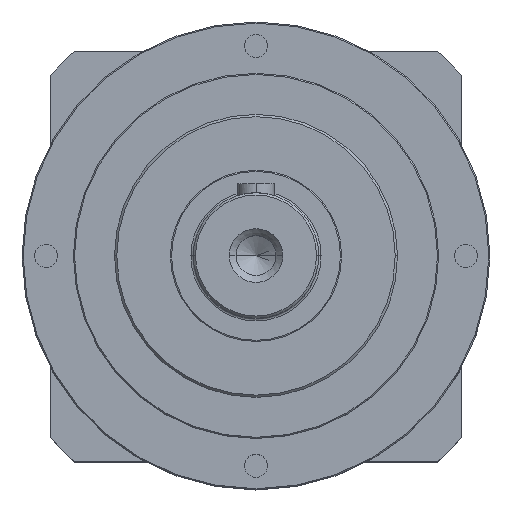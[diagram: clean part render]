
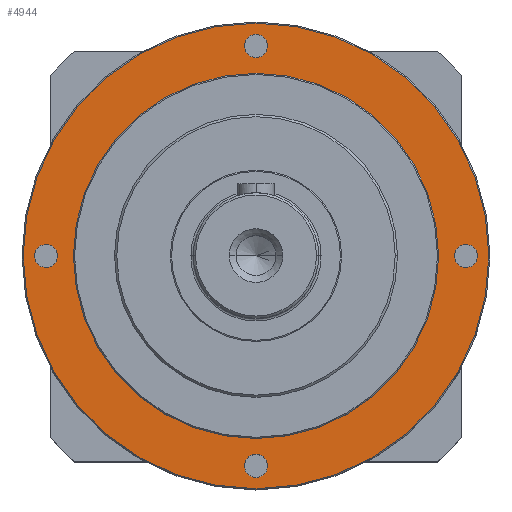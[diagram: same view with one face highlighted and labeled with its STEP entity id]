
A CAD part, top view. The second image highlights one B-rep face of the part: STEP entity #4944.
In plain terms, the highlighted planar face has unit normal (0, 0, 1).
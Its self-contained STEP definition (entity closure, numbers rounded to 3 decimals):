
#99 = CARTESIAN_POINT ( 'NONE',  ( 0., 0., 30. ) ) ;
#209 = EDGE_LOOP ( 'NONE', ( #2709, #4164 ) ) ;
#213 = CARTESIAN_POINT ( 'NONE',  ( 92., 0., 30. ) ) ;
#246 = CARTESIAN_POINT ( 'NONE',  ( 0., 0., 30. ) ) ;
#271 = CARTESIAN_POINT ( 'NONE',  ( -102., 0., 30. ) ) ;
#305 = EDGE_CURVE ( 'NONE', #652, #1727, #5048, .T. ) ;
#388 = ORIENTED_EDGE ( 'NONE', *, *, #2689, .F. ) ;
#393 = VERTEX_POINT ( 'NONE', #3344 ) ;
#459 = CARTESIAN_POINT ( 'NONE',  ( 5.1, 92., 30. ) ) ;
#513 = AXIS2_PLACEMENT_3D ( 'NONE', #2819, #1542, #5340 ) ;
#551 = VERTEX_POINT ( 'NONE', #1841 ) ;
#619 = CARTESIAN_POINT ( 'NONE',  ( 97.1, 0., 30. ) ) ;
#652 = VERTEX_POINT ( 'NONE', #1925 ) ;
#684 = DIRECTION ( 'NONE',  ( 0., 0., 1. ) ) ;
#699 = DIRECTION ( 'NONE',  ( 0., 0., 1. ) ) ;
#781 = ORIENTED_EDGE ( 'NONE', *, *, #4411, .F. ) ;
#861 = CIRCLE ( 'NONE', #901, 80. ) ;
#901 = AXIS2_PLACEMENT_3D ( 'NONE', #246, #684, #5228 ) ;
#913 = CARTESIAN_POINT ( 'NONE',  ( 0., 0., 30. ) ) ;
#1060 = CARTESIAN_POINT ( 'NONE',  ( 0., 92., 30. ) ) ;
#1115 = AXIS2_PLACEMENT_3D ( 'NONE', #2166, #2614, #4697 ) ;
#1117 = DIRECTION ( 'NONE',  ( 0., 0., 1. ) ) ;
#1127 = EDGE_CURVE ( 'NONE', #4384, #2283, #2807, .T. ) ;
#1195 = DIRECTION ( 'NONE',  ( 1., 0., 0. ) ) ;
#1197 = CARTESIAN_POINT ( 'NONE',  ( -5.1, -92., 30. ) ) ;
#1224 = ORIENTED_EDGE ( 'NONE', *, *, #4317, .F. ) ;
#1286 = AXIS2_PLACEMENT_3D ( 'NONE', #3451, #1330, #4294 ) ;
#1330 = DIRECTION ( 'NONE',  ( 0., 0., 1. ) ) ;
#1443 = CIRCLE ( 'NONE', #1286, 5.1 ) ;
#1445 = VERTEX_POINT ( 'NONE', #271 ) ;
#1448 = AXIS2_PLACEMENT_3D ( 'NONE', #5256, #4020, #4450 ) ;
#1452 = ORIENTED_EDGE ( 'NONE', *, *, #3228, .F. ) ;
#1485 = DIRECTION ( 'NONE',  ( 1., 0., 0. ) ) ;
#1542 = DIRECTION ( 'NONE',  ( 0., 0., 1. ) ) ;
#1674 = ORIENTED_EDGE ( 'NONE', *, *, #4354, .F. ) ;
#1704 = AXIS2_PLACEMENT_3D ( 'NONE', #2842, #699, #4129 ) ;
#1727 = VERTEX_POINT ( 'NONE', #2099 ) ;
#1811 = DIRECTION ( 'NONE',  ( 0., 0., 1. ) ) ;
#1828 = DIRECTION ( 'NONE',  ( 0., 0., 1. ) ) ;
#1835 = FACE_OUTER_BOUND ( 'NONE', #2648, .T. ) ;
#1837 = ORIENTED_EDGE ( 'NONE', *, *, #4094, .F. ) ;
#1841 = CARTESIAN_POINT ( 'NONE',  ( -5.1, 92., 30. ) ) ;
#1855 = EDGE_CURVE ( 'NONE', #551, #4927, #1443, .T. ) ;
#1878 = CIRCLE ( 'NONE', #3419, 80. ) ;
#1925 = CARTESIAN_POINT ( 'NONE',  ( -86.9, 0., 30. ) ) ;
#2099 = CARTESIAN_POINT ( 'NONE',  ( -97.1, 0., 30. ) ) ;
#2166 = CARTESIAN_POINT ( 'NONE',  ( 0., 0., 30. ) ) ;
#2190 = FACE_BOUND ( 'NONE', #4415, .T. ) ;
#2272 = CIRCLE ( 'NONE', #1448, 5.1 ) ;
#2283 = VERTEX_POINT ( 'NONE', #1197 ) ;
#2353 = EDGE_LOOP ( 'NONE', ( #5282, #1837 ) ) ;
#2355 = AXIS2_PLACEMENT_3D ( 'NONE', #4774, #1811, #3512 ) ;
#2401 = CARTESIAN_POINT ( 'NONE',  ( -92., 0., 30. ) ) ;
#2419 = EDGE_LOOP ( 'NONE', ( #3310, #781 ) ) ;
#2431 = AXIS2_PLACEMENT_3D ( 'NONE', #4932, #3265, #2874 ) ;
#2521 = EDGE_CURVE ( 'NONE', #4927, #551, #3800, .T. ) ;
#2589 = FACE_BOUND ( 'NONE', #2419, .T. ) ;
#2614 = DIRECTION ( 'NONE',  ( 0., 0., 1. ) ) ;
#2648 = EDGE_LOOP ( 'NONE', ( #3250, #5192 ) ) ;
#2650 = FACE_BOUND ( 'NONE', #2353, .T. ) ;
#2684 = DIRECTION ( 'NONE',  ( 0., 0., 1. ) ) ;
#2689 = EDGE_CURVE ( 'NONE', #4290, #3564, #3416, .T. ) ;
#2696 = DIRECTION ( 'NONE',  ( 0., 0., 1. ) ) ;
#2709 = ORIENTED_EDGE ( 'NONE', *, *, #2521, .F. ) ;
#2807 = CIRCLE ( 'NONE', #2355, 5.1 ) ;
#2819 = CARTESIAN_POINT ( 'NONE',  ( -92., 0., 30. ) ) ;
#2842 = CARTESIAN_POINT ( 'NONE',  ( 92., 0., 30. ) ) ;
#2874 = DIRECTION ( 'NONE',  ( 1., 0., 0. ) ) ;
#2992 = FACE_BOUND ( 'NONE', #209, .T. ) ;
#3064 = CIRCLE ( 'NONE', #4199, 5.1 ) ;
#3080 = DIRECTION ( 'NONE',  ( 1., 0., 0. ) ) ;
#3131 = CIRCLE ( 'NONE', #4298, 5.1 ) ;
#3228 = EDGE_CURVE ( 'NONE', #393, #5054, #1878, .T. ) ;
#3250 = ORIENTED_EDGE ( 'NONE', *, *, #4634, .T. ) ;
#3265 = DIRECTION ( 'NONE',  ( 0., 0., 1. ) ) ;
#3310 = ORIENTED_EDGE ( 'NONE', *, *, #305, .F. ) ;
#3344 = CARTESIAN_POINT ( 'NONE',  ( -80., 0., 30. ) ) ;
#3415 = CARTESIAN_POINT ( 'NONE',  ( 102., 0., 30. ) ) ;
#3416 = CIRCLE ( 'NONE', #1704, 5.1 ) ;
#3419 = AXIS2_PLACEMENT_3D ( 'NONE', #99, #1828, #3080 ) ;
#3431 = EDGE_CURVE ( 'NONE', #3769, #1445, #4185, .T. ) ;
#3451 = CARTESIAN_POINT ( 'NONE',  ( 0., 92., 30. ) ) ;
#3512 = DIRECTION ( 'NONE',  ( 1., 0., 0. ) ) ;
#3564 = VERTEX_POINT ( 'NONE', #3665 ) ;
#3581 = CIRCLE ( 'NONE', #4854, 102. ) ;
#3603 = CARTESIAN_POINT ( 'NONE',  ( 5.1, -92., 30. ) ) ;
#3623 = DIRECTION ( 'NONE',  ( 0., 0., 1. ) ) ;
#3665 = CARTESIAN_POINT ( 'NONE',  ( 86.9, 0., 30. ) ) ;
#3769 = VERTEX_POINT ( 'NONE', #3415 ) ;
#3800 = CIRCLE ( 'NONE', #5311, 5.1 ) ;
#3866 = DIRECTION ( 'NONE',  ( 1., 0., 0. ) ) ;
#4020 = DIRECTION ( 'NONE',  ( 0., 0., 1. ) ) ;
#4094 = EDGE_CURVE ( 'NONE', #2283, #4384, #2272, .T. ) ;
#4129 = DIRECTION ( 'NONE',  ( 1., 0., 0. ) ) ;
#4146 = CARTESIAN_POINT ( 'NONE',  ( 80., 0., 30. ) ) ;
#4164 = ORIENTED_EDGE ( 'NONE', *, *, #1855, .F. ) ;
#4165 = FACE_BOUND ( 'NONE', #5057, .T. ) ;
#4185 = CIRCLE ( 'NONE', #2431, 102. ) ;
#4199 = AXIS2_PLACEMENT_3D ( 'NONE', #2401, #1117, #1195 ) ;
#4290 = VERTEX_POINT ( 'NONE', #619 ) ;
#4294 = DIRECTION ( 'NONE',  ( 1., 0., 0. ) ) ;
#4298 = AXIS2_PLACEMENT_3D ( 'NONE', #213, #3623, #4404 ) ;
#4317 = EDGE_CURVE ( 'NONE', #3564, #4290, #3131, .T. ) ;
#4354 = EDGE_CURVE ( 'NONE', #5054, #393, #861, .T. ) ;
#4384 = VERTEX_POINT ( 'NONE', #3603 ) ;
#4404 = DIRECTION ( 'NONE',  ( 1., 0., 0. ) ) ;
#4411 = EDGE_CURVE ( 'NONE', #1727, #652, #3064, .T. ) ;
#4415 = EDGE_LOOP ( 'NONE', ( #388, #1224 ) ) ;
#4450 = DIRECTION ( 'NONE',  ( 1., 0., 0. ) ) ;
#4634 = EDGE_CURVE ( 'NONE', #1445, #3769, #3581, .T. ) ;
#4679 = PLANE ( 'NONE',  #1115 ) ;
#4697 = DIRECTION ( 'NONE',  ( 1., 0., 0. ) ) ;
#4774 = CARTESIAN_POINT ( 'NONE',  ( 0., -92., 30. ) ) ;
#4854 = AXIS2_PLACEMENT_3D ( 'NONE', #913, #2684, #3866 ) ;
#4927 = VERTEX_POINT ( 'NONE', #459 ) ;
#4932 = CARTESIAN_POINT ( 'NONE',  ( 0., 0., 30. ) ) ;
#4944 = ADVANCED_FACE ( 'NONE', ( #4165, #2190, #2650, #2589, #2992, #1835 ), #4679, .T. ) ;
#5048 = CIRCLE ( 'NONE', #513, 5.1 ) ;
#5054 = VERTEX_POINT ( 'NONE', #4146 ) ;
#5057 = EDGE_LOOP ( 'NONE', ( #1452, #1674 ) ) ;
#5192 = ORIENTED_EDGE ( 'NONE', *, *, #3431, .T. ) ;
#5228 = DIRECTION ( 'NONE',  ( 1., 0., 0. ) ) ;
#5256 = CARTESIAN_POINT ( 'NONE',  ( 0., -92., 30. ) ) ;
#5282 = ORIENTED_EDGE ( 'NONE', *, *, #1127, .F. ) ;
#5311 = AXIS2_PLACEMENT_3D ( 'NONE', #1060, #2696, #1485 ) ;
#5340 = DIRECTION ( 'NONE',  ( 1., 0., 0. ) ) ;
